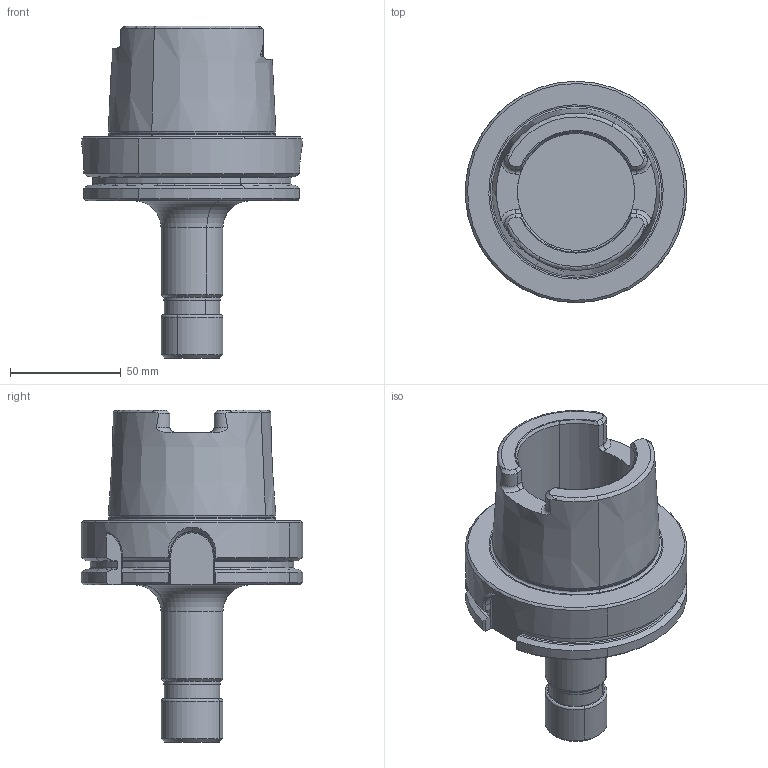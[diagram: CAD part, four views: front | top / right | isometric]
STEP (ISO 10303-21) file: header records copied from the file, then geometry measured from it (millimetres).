
FILE_DESCRIPTION(('CATIA V5 STEP','CAx-IF Rec.Pracs.--- Model Styling and Organization---1.2---2011-12-15'),'2;1');
FILE_NAME('I:\isr\design\admin8\users\wissam_s\4561143-I.stp','2014-03-11T10:23:22+00:00',('none'),('none'),'CATIA Version 5 Release 21 SP 5 (IN-10)','CATIA V5 STEP AP214','none');
FILE_SCHEMA(('AUTOMOTIVE_DESIGN { 1 0 10303 214 1 1 1 1 }'));
Length unit declared in the file: millimetre
Products named in the file (1): 60903249_0 Assembly HSK A 100 ER20X100 M
Bounding box: 100 x 100 x 150 mm (x, y, z)
Volume: 331401.2 mm3; surface area: 52404.8 mm2
Topology: 1 solids, 1 shells, 169 faces, 430 edges, 268 vertices
Faces by surface type: plane 50, cylinder 44, torus 37, cone 34, bspline 2, extrusion 2
Entity records: 5171 total; most frequent: CARTESIAN_POINT 1558, ORIENTED_EDGE 860, DIRECTION 537, EDGE_CURVE 430, AXIS2_PLACEMENT_3D 290, VERTEX_POINT 268, CIRCLE 186, EDGE_LOOP 174
